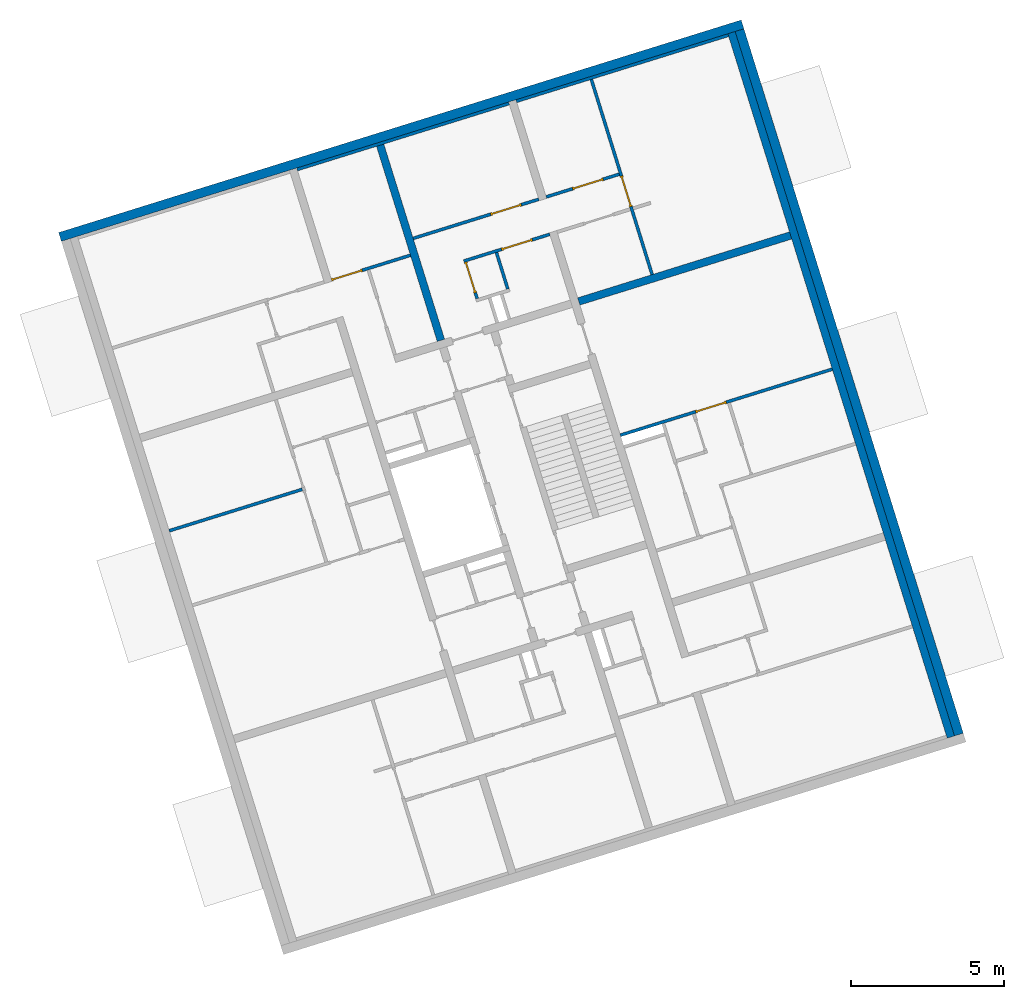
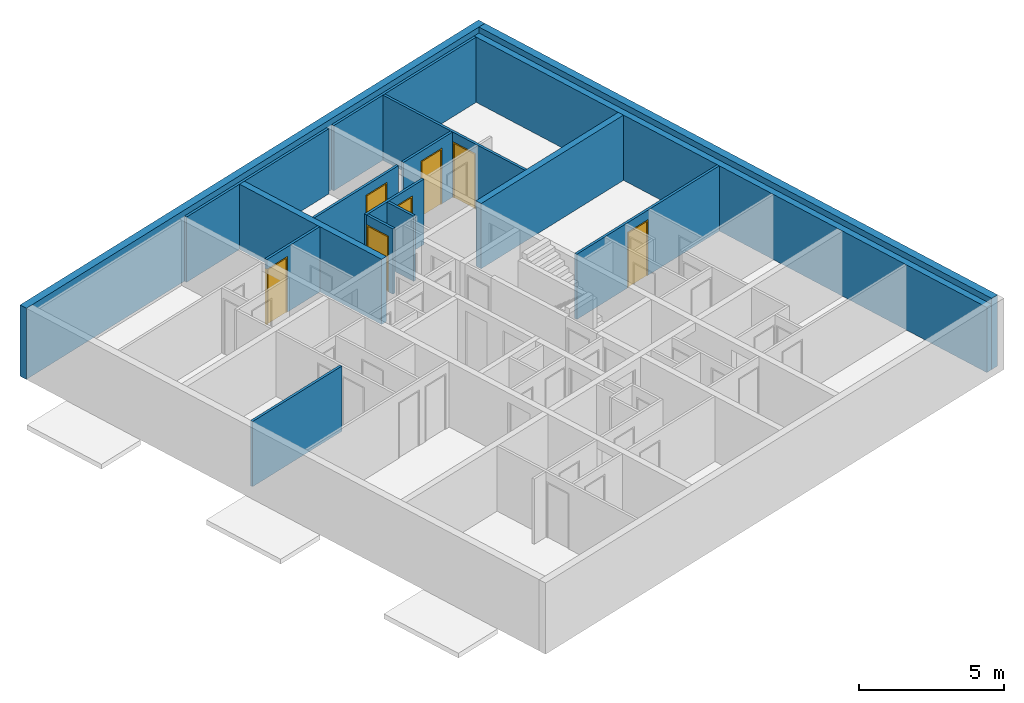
# One storey, part 6 of 8: 16 walls, 7 doors, 9 openings.
"""IFC4 building model written with IfcOpenShell, lengths in metres."""

from ifc_helpers import new_model, entity, si_unit, converted_unit, direction, frame, origin, place, context, subcontext, project, spatial, indexed_curve, outline, extrude, polygons, source, transform, mapped, material, constituent, constituent_set, type_object, type_shapes, element, fill, save


model = new_model("IFC4")

# Units and contexts
model_context = context("Model", 3, precision=1e-05, world=origin(), true_north=direction((6.12323399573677e-17, 1.0)))
body_context = subcontext(model_context, "Body", "Model", "MODEL_VIEW")
ifc_project = project(units=[si_unit("LENGTHUNIT", "METRE"), si_unit("AREAUNIT", "SQUARE_METRE"), si_unit("VOLUMEUNIT", "CUBIC_METRE"), converted_unit("PLANEANGLEUNIT", "DEGREE", entity("IfcPlaneAngleMeasure", 0.0174532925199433), si_unit("PLANEANGLEUNIT", "RADIAN"), dimensions=[0, 0, 0, 0, 0, 0, 0])], contexts=[model_context])

# Site, building, storey
site_placement = place(None, frame((13.1347999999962, 11.9886000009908, 0.0), z_axis=(0.0, 0.0, 1.0), x_axis=(0.954770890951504, 0.297342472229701, 0.0)))
site = spatial("IfcSite", under=ifc_project, at=site_placement, Name="Schiehaven", CompositionType="ELEMENT")
building_placement = place(site_placement, origin())
building = spatial("IfcBuilding", under=site, at=building_placement, Name="VORM huis", CompositionType="ELEMENT")
storey_placement = place(building_placement, frame((0.0, 0.0, 21.9)))
storey = spatial("IfcBuildingStorey", under=building, at=storey_placement, Name="07 zevende verdieping", CompositionType="ELEMENT", Elevation=21.9)

# Walls
ifc_material_1 = material(Name="beton_gewapend_ihw", Category="Miscellaneous")
wall_type_1 = type_object("IfcWallType", Name="Basic Wall:28_WA_skelet_wand 250mm_gen", PredefinedType="STANDARD")
wall_1_placement = place(storey_placement, frame((27.5000000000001, 5.0, 0.0), z_axis=(0.0, 0.0, 1.0), x_axis=(0.0, 1.0, 0.0)))
element("IfcWall", 1, at=wall_1_placement, inside=storey, type_object=wall_type_1, material=ifc_material_1, Name="Constructieve wand", ObjectType="Wand", PredefinedType="NOTDEFINED", context=body_context, shape_type="SweptSolid", body=[
    extrude(outline(indexed_curve([(24.1, 0.125000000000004), (-1.12157309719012e-16, 0.125000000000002), (1.12157309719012e-16, -0.125000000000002), (24.1, -0.125), (24.1, 0.125000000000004)], self_intersect=False)), origin(), (0.0, 0.0, 1.0), 2.75),
])
ifc_material_2 = material(Name="ntb_ntb_ntb", Category="Miscellaneous")
wall_type_2 = type_object("IfcWallType", Name="Basic Wall:21_WA_gevel_binnenspouwwand 100mm_gen", PredefinedType="STANDARD")
wall_2_placement = place(storey_placement, frame((19.875, 29.05, 0.0), z_axis=(0.0, 0.0, 1.0), x_axis=(-1.0, 0.0, 0.0)))
element("IfcWall", 2, at=wall_2_placement, inside=storey, type_object=wall_type_2, material=ifc_material_2, Name="Binnenspouwblad", ObjectType="Wand", PredefinedType="NOTDEFINED", context=body_context, shape_type="SweptSolid", body=[
    extrude(outline(indexed_curve([(7.24999999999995, 0.0500000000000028), (-8.07179175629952e-18, 0.0500000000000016), (8.07179175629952e-18, -0.0500000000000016), (7.24999999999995, -0.0500000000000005), (7.24999999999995, 0.0500000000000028)], self_intersect=False)), origin(), (0.0, 0.0, 1.0), 2.75),
])
wall_3_placement = place(storey_placement, frame((20.1250000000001, 29.05, 0.0)))
element("IfcWall", 3, at=wall_3_placement, inside=storey, type_object=wall_type_2, material=ifc_material_2, Name="Binnenspouwblad", ObjectType="Wand", PredefinedType="NOTDEFINED", context=body_context, shape_type="SweptSolid", body=[
    extrude(outline(indexed_curve([(7.24999999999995, 0.0500000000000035), (-1.62265042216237e-16, 0.0500000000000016), (1.62265042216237e-16, -0.0500000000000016), (7.24999999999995, -0.0499999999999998), (7.24999999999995, 0.0500000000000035)], self_intersect=False)), origin(), (0.0, 0.0, 1.0), 2.75),
])
wall_type_3 = type_object("IfcWallType", Name="Basic Wall: 300mm_gen", PredefinedType="STANDARD")
wall_4_placement = place(storey_placement, frame((27.7750000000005, 29.0999999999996, 0.0), z_axis=(0.0, 0.0, 1.0), x_axis=(0.0, -1.0, 0.0)))
element("IfcWall", 4, at=wall_4_placement, inside=storey, type_object=wall_type_3, material=ifc_material_2, Name="Gevelwand", ObjectType="Wand", PredefinedType="NOTDEFINED", context=body_context, shape_type="SweptSolid", body=[
    extrude(outline(indexed_curve([(24.1, 0.150000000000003), (2.02161848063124e-15, 0.150000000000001), (-2.02161848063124e-15, -0.150000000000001), (24.1, -0.149999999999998), (24.1, 0.150000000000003)], self_intersect=False)), origin(), (0.0, 0.0, 1.0), 3.0),
])
wall_5_placement = place(storey_placement, frame((4.57500000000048, 29.25, 0.0)))
element("IfcWall", 5, at=wall_5_placement, inside=storey, type_object=wall_type_3, material=ifc_material_2, Name="Gevelwand", ObjectType="Wand", PredefinedType="NOTDEFINED", context=body_context, shape_type="SweptSolid", body=[
    extrude(outline(indexed_curve([(23.35, 0.149999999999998), (-1.57429718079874e-16, 0.150000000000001), (1.57429718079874e-16, -0.150000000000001), (23.35, -0.150000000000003), (23.35, 0.149999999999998)], self_intersect=False)), origin(), (0.0, 0.0, 1.0), 3.0),
])
wall_type_4 = type_object("IfcWallType", Name="Basic Wall:22_WA_afbouw_binnenwand 250mm_gen", PredefinedType="STANDARD")
wall_6_placement = place(storey_placement, frame((15.4500000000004, 22.3249999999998, 0.0), z_axis=(0.0, 0.0, 1.0), x_axis=(0.0, 1.0, 0.0)))
element("IfcWall", 6, at=wall_6_placement, inside=storey, type_object=wall_type_4, material=ifc_material_2, Name="Binnenwand", ObjectType="Wand", PredefinedType="NOTDEFINED", context=body_context, shape_type="SweptSolid", body=[
    extrude(outline(indexed_curve([(6.67500000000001, 0.124999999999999), (2.02524027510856e-15, 0.125), (-2.02524027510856e-15, -0.125), (6.67500000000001, -0.125), (6.67500000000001, 0.124999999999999)], self_intersect=False)), origin(), (0.0, 0.0, 1.0), 2.75),
])
wall_7_placement = place(storey_placement, frame((20.1250000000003, 22.1999999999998, 0.0)))
element("IfcWall", 7, at=wall_7_placement, inside=storey, type_object=wall_type_4, material=ifc_material_2, Name="Binnenwand", ObjectType="Wand", PredefinedType="NOTDEFINED", context=body_context, shape_type="SweptSolid", body=[
    extrude(outline(indexed_curve([(7.24999999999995, 0.125000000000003), (-1.80881749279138e-15, 0.125000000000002), (1.80881749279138e-15, -0.125000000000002), (7.24999999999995, -0.125000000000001), (7.24999999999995, 0.125000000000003)], self_intersect=False)), origin(), (0.0, 0.0, 1.0), 2.75),
])

# Wall, opening, door
wall_type_5 = type_object("IfcWallType", Name="Basic Wall:22_WA_afbouw_binnenwand 100mm_gen", PredefinedType="STANDARD")
wall_8_placement = place(storey_placement, frame((19.8750000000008, 25.7750000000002, 0.0), z_axis=(0.0, 0.0, 1.0), x_axis=(-1.0, 0.0, 0.0)))
wall_8 = element("IfcWall", 8, at=wall_8_placement, inside=storey, type_object=wall_type_5, material=ifc_material_2, Name="Binnenwand", ObjectType="Wand", PredefinedType="NOTDEFINED", context=body_context, shape_type="Tessellation", body=[
    polygons([(1.41600119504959e-15, -0.0499999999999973, 0.0), (0.599999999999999, -0.0499999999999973, 0.0), (0.600000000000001, -0.0499999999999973, 2.34999999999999), (1.65, -0.0500000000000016, 2.34999999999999), (1.65, -0.0500000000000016, 0.0), (4.30000000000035, -0.0500000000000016, 0.0), (4.30000000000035, -0.0500000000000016, 2.75), (1.41600119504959e-15, -0.0499999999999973, 2.75), (0.600000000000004, 0.0500000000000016, 2.34999999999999), (0.600000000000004, 0.0500000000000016, 0.0), (-3.19070089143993e-17, 0.0500000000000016, 0.0), (-3.19070089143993e-17, 0.0500000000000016, 2.75), (4.30000000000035, 0.0499999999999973, 2.75), (4.30000000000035, 0.0499999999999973, 0.0), (1.65, 0.0499999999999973, 0.0), (1.65, 0.0499999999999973, 2.34999999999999)], [[[1, 2, 3, 4, 5, 6, 7, 8]], [[9, 10, 11, 12, 13, 14, 15, 16]], [[11, 10, 2, 1]], [[7, 6, 14, 13]], [[8, 7, 13, 12]], [[1, 8, 12, 11]], [[5, 4, 16, 15]], [[3, 2, 10, 9]], [[4, 3, 9, 16]], [[15, 14, 6, 5]]], closed=True),
])
opening_1_placement = place(wall_8_placement, frame((0.599999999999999, -0.0500000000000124, 0.0)))
opening_1 = element("IfcOpeningElement", 9, at=opening_1_placement, cuts=wall_8, Name="Binnendeur", PredefinedType="OPENING", context=body_context, shape_type="SweptSolid", body=[
    extrude(outline(indexed_curve([(2.34999999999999, 1.05), (0.0, 1.05), (0.0, 1.35358391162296e-15), (2.34999999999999, 1.35358391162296e-15), (2.34999999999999, 1.05)], self_intersect=False)), frame((0.0, 0.0, 0.0), z_axis=(0.0, 1.0, 0.0), x_axis=(0.0, 0.0, 1.0)), (0.0, 0.0, 1.0), 0.1),
])
ifc_material_3 = material(Name="PD_a_binnenwandopeningen", Category="Miscellaneous")
ifc_constituent_1 = constituent(ifc_material_3, Name="PD_a_binnenwandopeningen", Category="Miscellaneous")
ifc_material_4 = material(Name="metaal_aluminium_ntb", Category="Miscellaneous")
ifc_constituent_2 = constituent(ifc_material_4, Name="metaal_aluminium_ntb", Category="Miscellaneous")
ifc_constituent_set_1 = constituent_set(constituents=[ifc_constituent_1, ifc_constituent_2])
door_type = type_object("IfcDoorType", Name="32_DO_binnendeur enkel:binnendeur", OperationType="REVOLVING", PredefinedType="DOOR")
shared_shape_1 = source(origin(), body_context, "Body", "SweptSolid", [
    extrude(outline(indexed_curve([(-1.16249999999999, -0.525000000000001), (1.18749999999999, -0.525), (1.18749999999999, 0.525), (-1.16249999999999, 0.525), (-1.16249999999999, 0.475), (1.13749999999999, 0.475), (1.13749999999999, -0.475), (-1.16249999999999, -0.475), (-1.16249999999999, -0.525000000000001)], self_intersect=False)), frame((0.525000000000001, 0.0, 1.16249999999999), z_axis=(0.0, 1.0, 0.0), x_axis=(0.0, 0.0, 1.0)), (0.0, 0.0, 1.0), 0.1),
    extrude(outline(indexed_curve([(-0.025, -0.475), (0.025, -0.475), (0.025, 0.475), (-0.025, 0.475), (-0.025, -0.475)], self_intersect=False)), frame((0.525000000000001, 0.0499999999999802, 0.0), z_axis=(0.0, 0.0, 1.0), x_axis=(0.0, 1.0, 0.0)), (0.0, 0.0, 1.0), 2.29999999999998),
])
type_shapes(door_type, [shared_shape_1])
door_1_placement = place(opening_1_placement, origin())
door_1 = element("IfcDoor", 10, at=door_1_placement, inside=storey, type_object=door_type, material=ifc_constituent_set_1, Name="Binnendeur", ObjectType="Deur", OperationType="REVOLVING", OverallHeight=2.34999999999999, OverallWidth=1.05, PredefinedType="DOOR", context=body_context, shape_type="MappedRepresentation", body=[
    mapped(shared_shape_1, transform((0.0, 0.0, 0.0), scale=1.0)),
])
fill(opening_1, door_1)

# Wall, openings, door
wall_9_placement = place(storey_placement, frame((19.8750000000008, 24.5750000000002, 0.0), z_axis=(0.0, 0.0, 1.0), x_axis=(-1.0, 0.0, 0.0)))
wall_9 = element("IfcWall", 11, at=wall_9_placement, inside=storey, type_object=wall_type_5, material=ifc_material_2, Name="Binnenwand", ObjectType="Wand", PredefinedType="NOTDEFINED", context=body_context, shape_type="Tessellation", body=[
    polygons([(1.65, -0.0500000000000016, 2.34999999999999), (1.65, -0.0500000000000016, 0.0), (2.94100000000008, -0.0500000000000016, 0.0), (2.94100000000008, -0.0500000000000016, 2.75), (1.36697681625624e-15, -0.0499999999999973, 2.75), (1.36697681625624e-15, -0.0499999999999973, 0.0), (0.599999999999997, -0.0499999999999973, 0.0), (0.599999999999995, -0.0499999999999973, 2.34999999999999), (2.94100000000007, 0.0499999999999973, 0.0), (1.89100000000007, 0.0499999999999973, 0.0), (1.79100000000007, 0.0500000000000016, 0.0), (1.65, 0.0499999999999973, 0.0), (1.65, 0.0499999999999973, 2.34999999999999), (0.6, 0.0500000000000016, 2.34999999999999), (0.6, 0.0500000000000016, 0.0), (-8.09313877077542e-17, 0.0500000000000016, 0.0), (-8.09313877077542e-17, 0.0500000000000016, 2.75), (1.79100000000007, 0.0500000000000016, 2.75), (1.89100000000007, 0.0499999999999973, 2.75), (2.84100000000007, 0.0499999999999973, 2.75), (2.94100000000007, 0.0499999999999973, 2.75), (2.94100000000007, 0.0499999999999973, 2.34999999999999)], [[[1, 2, 3, 4, 5, 6, 7, 8]], [[9, 10, 11, 12, 13, 14, 15, 16, 17, 18, 19, 20, 21, 22]], [[7, 6, 16, 15]], [[5, 4, 21, 20, 19, 18, 17]], [[6, 5, 17, 16]], [[15, 14, 8, 7]], [[13, 12, 2, 1]], [[14, 13, 1, 8]], [[4, 3, 9, 22, 21]], [[3, 2, 12, 11, 10, 9]]], closed=True),
])
opening_2_placement = place(wall_9_placement, origin())
element("IfcOpeningElement", 12, at=opening_2_placement, cuts=wall_9, Name="Binnendeur", PredefinedType="OPENING", context=body_context, shape_type="SweptSolid", body=[
    extrude(outline(indexed_curve([(-0.0499999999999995, -1.17499999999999), (0.0500000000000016, -1.17499999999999), (0.0500000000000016, 1.17499999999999), (-0.0499999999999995, 1.17499999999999), (-0.0499999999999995, -1.17499999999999)], self_intersect=False)), frame((2.89100000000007, 0.0499999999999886, 1.17499999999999), z_axis=(0.0, 1.0, 0.0), x_axis=(-1.0, 0.0, 0.0)), (0.0, 0.0, 1.0), 1.05),
])
opening_3_placement = place(wall_9_placement, frame((1.65, 0.0499999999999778, 0.0)))
opening_3 = element("IfcOpeningElement", 13, at=opening_3_placement, cuts=wall_9, Name="Binnendeur", PredefinedType="OPENING", context=body_context, shape_type="SweptSolid", body=[
    extrude(outline(indexed_curve([(2.34999999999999, 1.05), (0.0, 1.05), (0.0, 1.35358391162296e-15), (2.34999999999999, 1.35358391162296e-15), (2.34999999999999, 1.05)], self_intersect=False)), frame((0.0, 0.0, 0.0), z_axis=(0.0, -1.0, 0.0), x_axis=(0.0, 0.0, 1.0)), (0.0, 0.0, 1.0), 0.1),
])
ifc_constituent_3 = constituent(ifc_material_3, Name="PD_a_binnenwandopeningen", Category="Miscellaneous")
ifc_constituent_4 = constituent(ifc_material_4, Name="metaal_aluminium_ntb", Category="Miscellaneous")
ifc_constituent_set_2 = constituent_set(constituents=[ifc_constituent_3, ifc_constituent_4])
door_2_placement = place(opening_3_placement, frame((0.0, 0.0, 0.0), z_axis=(0.0, 0.0, 1.0), x_axis=(-1.0, 0.0, 0.0)))
door_2 = element("IfcDoor", 14, at=door_2_placement, inside=storey, type_object=door_type, material=ifc_constituent_set_2, Name="Binnendeur", ObjectType="Deur", OperationType="REVOLVING", OverallHeight=2.34999999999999, OverallWidth=1.05, PredefinedType="DOOR", context=body_context, shape_type="MappedRepresentation", body=[
    mapped(shared_shape_1, transform((0.0, 0.0, 0.0), scale=1.0)),
])
fill(opening_3, door_2)

# Wall, opening, door
wall_10_placement = place(storey_placement, frame((16.9840000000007, 24.5250000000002, 0.0), z_axis=(0.0, 0.0, 1.0), x_axis=(0.0, -1.0, 0.0)))
wall_10 = element("IfcWall", 15, at=wall_10_placement, inside=storey, type_object=wall_type_5, material=ifc_material_2, Name="Binnenwand", ObjectType="Wand", PredefinedType="NOTDEFINED", context=body_context, shape_type="Tessellation", body=[
    polygons([(1.24999999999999, -0.0500000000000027, 2.75), (0.0, -0.0500000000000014, 2.75), (0.0, -0.0500000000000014, 2.34999999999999), (1.05, -0.050000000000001, 2.34999999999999), (1.05, -0.050000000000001, 0.0), (1.24999999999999, -0.0500000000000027, 0.0), (0.0, 0.0499999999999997, 2.75), (1.25, 0.0500000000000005, 2.75), (1.25, 0.0500000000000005, 0.0), (1.05, 0.0500000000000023, 0.0), (1.05, 0.0500000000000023, 2.34999999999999), (0.0, 0.0499999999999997, 2.34999999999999)], [[[1, 2, 3, 4, 5, 6]], [[7, 8, 9, 10, 11, 12]], [[9, 6, 5, 10]], [[2, 1, 8, 7]], [[4, 11, 10, 5]], [[11, 4, 3, 12]], [[1, 6, 9, 8]], [[2, 7, 12, 3]]], closed=True),
])
opening_4_placement = place(wall_10_placement, frame((1.05, 0.0499999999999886, 0.0)))
opening_4 = element("IfcOpeningElement", 16, at=opening_4_placement, cuts=wall_10, Name="Binnendeur", PredefinedType="OPENING", context=body_context, shape_type="SweptSolid", body=[
    extrude(outline(indexed_curve([(2.34999999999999, 1.05), (0.0, 1.05), (0.0, 0.0), (2.34999999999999, 0.0), (2.34999999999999, 1.05)], self_intersect=False)), frame((0.0, 0.0, 0.0), z_axis=(0.0, -1.0, 0.0), x_axis=(0.0, 0.0, 1.0)), (0.0, 0.0, 1.0), 0.1),
])
ifc_constituent_5 = constituent(ifc_material_3, Name="PD_a_binnenwandopeningen", Category="Miscellaneous")
ifc_constituent_6 = constituent(ifc_material_4, Name="metaal_aluminium_ntb", Category="Miscellaneous")
ifc_constituent_set_3 = constituent_set(constituents=[ifc_constituent_5, ifc_constituent_6])
door_3_placement = place(opening_4_placement, frame((0.0, 0.0, 0.0), z_axis=(0.0, 0.0, 1.0), x_axis=(-1.0, 0.0, 0.0)))
door_3 = element("IfcDoor", 17, at=door_3_placement, inside=storey, type_object=door_type, material=ifc_constituent_set_3, Name="Binnendeur", ObjectType="Deur", OperationType="REVOLVING", OverallHeight=2.34999999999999, OverallWidth=1.05, PredefinedType="DOOR", context=body_context, shape_type="MappedRepresentation", body=[
    mapped(shared_shape_1, transform((0.0, 0.0, 0.0), scale=1.0)),
])
fill(opening_4, door_3)

# Wall
wall_11_placement = place(storey_placement, frame((18.0340000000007, 23.2750000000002, 0.0), z_axis=(0.0, 0.0, 1.0), x_axis=(0.0, 1.0, 0.0)))
element("IfcWall", 18, at=wall_11_placement, inside=storey, type_object=wall_type_5, material=ifc_material_2, Name="Binnenwand", ObjectType="Wand", PredefinedType="NOTDEFINED", context=body_context, shape_type="SweptSolid", body=[
    extrude(outline(indexed_curve([(1.25, 0.049999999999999), (-6.72839576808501e-16, 0.0499999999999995), (6.72839576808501e-16, -0.0499999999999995), (1.25, -0.05), (1.25, 0.049999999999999)], self_intersect=False)), origin(), (0.0, 0.0, 1.0), 2.75),
])

# Wall, opening, door
wall_12_placement = place(storey_placement, frame((20.1250000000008, 25.7750000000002, 0.0)))
wall_12 = element("IfcWall", 19, at=wall_12_placement, inside=storey, type_object=wall_type_5, material=ifc_material_2, Name="Binnenwand", ObjectType="Wand", PredefinedType="NOTDEFINED", context=body_context, shape_type="Tessellation", body=[
    polygons([(-4.45664919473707e-16, -0.0499999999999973, 0.0), (0.899999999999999, -0.049999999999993, 0.0), (0.899999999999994, -0.049999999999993, 2.34999999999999), (1.95, -0.0499999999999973, 2.34999999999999), (1.95, -0.0499999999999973, 0.0), (2.5, -0.049999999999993, 0.0), (2.5, -0.049999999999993, 2.75), (-4.45664919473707e-16, -0.0499999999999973, 2.75), (0.899999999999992, 0.050000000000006, 2.34999999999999), (0.899999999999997, 0.050000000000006, 0.0), (-2.31636917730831e-15, 0.0500000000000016, 0.0), (-2.31636917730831e-15, 0.0500000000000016, 2.75), (2.50000000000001, 0.050000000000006, 2.75), (2.50000000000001, 0.050000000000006, 0.0), (1.95, 0.0500000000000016, 0.0), (1.95, 0.0500000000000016, 2.34999999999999)], [[[1, 2, 3, 4, 5, 6, 7, 8]], [[9, 10, 11, 12, 13, 14, 15, 16]], [[11, 10, 2, 1]], [[8, 7, 13, 12]], [[1, 8, 12, 11]], [[5, 4, 16, 15]], [[3, 2, 10, 9]], [[4, 3, 9, 16]], [[7, 6, 14, 13]], [[15, 14, 6, 5]]], closed=True),
])
opening_5_placement = place(wall_12_placement, frame((1.95, 0.049999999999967, 0.0)))
opening_5 = element("IfcOpeningElement", 20, at=opening_5_placement, cuts=wall_12, Name="Binnendeur", PredefinedType="OPENING", context=body_context, shape_type="SweptSolid", body=[
    extrude(outline(indexed_curve([(2.34999999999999, 0.0), (2.34999999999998, 1.05), (0.0, 1.05), (2.16573425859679e-15, 0.0), (2.34999999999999, 0.0)], self_intersect=False)), frame((0.0, 0.0, 0.0), z_axis=(0.0, -1.0, 0.0), x_axis=(0.0, 0.0, 1.0)), (0.0, 0.0, 1.0), 0.1),
])
ifc_constituent_7 = constituent(ifc_material_3, Name="PD_a_binnenwandopeningen", Category="Miscellaneous")
ifc_constituent_8 = constituent(ifc_material_4, Name="metaal_aluminium_ntb", Category="Miscellaneous")
ifc_constituent_set_4 = constituent_set(constituents=[ifc_constituent_7, ifc_constituent_8])
shared_shape_2 = source(origin(), body_context, "Body", "SweptSolid", [
    extrude(outline(indexed_curve([(0.475, -1.16249999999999), (0.525, -1.16249999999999), (0.525, 1.18749999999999), (-0.525, 1.18749999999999), (-0.525, -1.16249999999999), (-0.475, -1.16249999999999), (-0.475, 1.13749999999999), (0.475, 1.13749999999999), (0.475, -1.16249999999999)], self_intersect=False)), frame((0.525000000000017, 0.100000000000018, 1.16249999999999), z_axis=(0.0, -1.0, 0.0), x_axis=(1.0, 0.0, 0.0)), (0.0, 0.0, 1.0), 0.1),
    extrude(outline(indexed_curve([(-0.475, -0.025), (0.475, -0.025), (0.475, 0.025), (-0.475, 0.025), (-0.475, -0.025)], self_intersect=False)), frame((0.525000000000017, 0.0499999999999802, 0.0)), (0.0, 0.0, 1.0), 2.29999999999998),
])
door_4_placement = place(opening_5_placement, frame((0.0, 0.0, 0.0), z_axis=(0.0, 0.0, 1.0), x_axis=(-1.0, 0.0, 0.0)))
door_4 = element("IfcDoor", 21, at=door_4_placement, inside=storey, type_object=door_type, material=ifc_constituent_set_4, Name="Binnendeur", ObjectType="Deur", OperationType="REVOLVING", OverallHeight=2.34999999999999, OverallWidth=1.05, PredefinedType="DOOR", context=body_context, shape_type="MappedRepresentation", body=[
    mapped(shared_shape_2, transform((0.0, 0.0, 0.0), scale=1.0)),
])
fill(opening_5, door_4)

wall_13_placement = place(storey_placement, frame((22.6750000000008, 22.3250000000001, 0.0), z_axis=(0.0, 0.0, 1.0), x_axis=(0.0, 1.0, 0.0)))
wall_13 = element("IfcWall", 22, at=wall_13_placement, inside=storey, type_object=wall_type_5, material=ifc_material_2, Name="Binnenwand", ObjectType="Wand", PredefinedType="NOTDEFINED", context=body_context, shape_type="Tessellation", body=[
    polygons([(4.33146851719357e-15, -0.0499999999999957, 0.0), (2.2, -0.0499999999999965, 0.0), (2.3, -0.0499999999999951, 0.0), (2.32500000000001, -0.0499999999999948, 0.0), (2.32500000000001, -0.0499999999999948, 2.34999999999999), (3.37500000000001, -0.0499999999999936, 2.34999999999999), (3.37500000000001, -0.0499999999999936, 0.0), (6.67499999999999, -0.0499999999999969, 0.0), (6.67499999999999, -0.0499999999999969, 2.75), (2.3, -0.0499999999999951, 2.75), (2.2, -0.0499999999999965, 2.75), (4.33146851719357e-15, -0.0499999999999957, 2.75), (2.325, 0.0500000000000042, 2.34999999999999), (2.325, 0.0500000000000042, 0.0), (2.3, 0.0500000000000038, 0.0), (2.2, 0.0500000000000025, 0.0), (0.0, 0.0500000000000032, 0.0), (0.0, 0.0500000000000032, 2.75), (2.2, 0.0500000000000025, 2.75), (2.3, 0.0500000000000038, 2.75), (3.4, 0.0500000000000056, 2.75), (3.5, 0.0500000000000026, 2.75), (6.67499999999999, 0.050000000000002, 2.75), (6.67499999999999, 0.050000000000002, 0.0), (3.5, 0.0500000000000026, 0.0), (3.4, 0.0500000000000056, 0.0), (3.37500000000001, 0.0500000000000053, 0.0), (3.37500000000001, 0.0500000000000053, 2.34999999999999)], [[[1, 2, 3, 4, 5, 6, 7, 8, 9, 10, 11, 12]], [[13, 14, 15, 16, 17, 18, 19, 20, 21, 22, 23, 24, 25, 26, 27, 28]], [[17, 16, 15, 14, 4, 3, 2, 1]], [[9, 8, 24, 23]], [[12, 11, 10, 9, 23, 22, 21, 20, 19, 18]], [[1, 12, 18, 17]], [[7, 6, 28, 27]], [[5, 4, 14, 13]], [[6, 5, 13, 28]], [[27, 26, 25, 24, 8, 7]]], closed=True),
])
opening_6_placement = place(wall_13_placement, frame((2.325, -0.0500000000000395, 0.0)))
opening_6 = element("IfcOpeningElement", 23, at=opening_6_placement, cuts=wall_13, Name="Binnendeur", PredefinedType="OPENING", context=body_context, shape_type="SweptSolid", body=[
    extrude(outline(indexed_curve([(2.34999999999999, 1.05), (0.0, 1.05), (0.0, -4.30326930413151e-29), (2.34999999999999, -4.30326930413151e-29), (2.34999999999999, 1.05)], self_intersect=False)), frame((0.0, 0.0, 0.0), z_axis=(0.0, 1.0, 0.0), x_axis=(0.0, 0.0, 1.0)), (0.0, 0.0, 1.0), 0.1),
])
ifc_constituent_9 = constituent(ifc_material_3, Name="PD_a_binnenwandopeningen", Category="Miscellaneous")
ifc_constituent_10 = constituent(ifc_material_4, Name="metaal_aluminium_ntb", Category="Miscellaneous")
ifc_constituent_set_5 = constituent_set(constituents=[ifc_constituent_9, ifc_constituent_10])
door_5_placement = place(opening_6_placement, origin())
door_5 = element("IfcDoor", 24, at=door_5_placement, inside=storey, type_object=door_type, material=ifc_constituent_set_5, Name="Binnendeur", ObjectType="Deur", OperationType="REVOLVING", OverallHeight=2.34999999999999, OverallWidth=1.05, PredefinedType="DOOR", context=body_context, shape_type="MappedRepresentation", body=[
    mapped(shared_shape_1, transform((0.0, 0.0, 0.0), scale=1.0)),
])
fill(opening_6, door_5)

wall_14_placement = place(storey_placement, frame((20.1228357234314, 17.625, 0.0)))
wall_14 = element("IfcWall", 25, at=wall_14_placement, inside=storey, type_object=wall_type_5, material=ifc_material_2, Name="Binnenwand", ObjectType="Wand", PredefinedType="NOTDEFINED", context=body_context, shape_type="Tessellation", body=[
    polygons([(-1.21241354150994e-15, -0.0500000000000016, 0.0), (1.40216427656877, -0.0500000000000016, 0.0), (1.50216427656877, -0.0499999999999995, 0.0), (2.45216427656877, -0.0500000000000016, 0.0), (2.55216427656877, -0.0500000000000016, 0.0), (2.57716427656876, -0.0500000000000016, 0.0), (2.57716427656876, -0.0500000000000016, 2.34999999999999), (3.62716427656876, -0.0500000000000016, 2.34999999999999), (3.62716427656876, -0.0500000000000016, 0.0), (3.65216427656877, -0.0500000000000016, 0.0), (3.75216427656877, -0.0499999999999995, 0.0), (7.25216427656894, -0.0499999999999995, 0.0), (7.25216427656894, -0.0499999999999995, 2.75), (3.75216427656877, -0.0499999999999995, 2.75), (3.65216427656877, -0.0500000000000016, 2.75), (2.55216427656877, -0.0500000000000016, 2.75), (2.45216427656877, -0.0500000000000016, 2.75), (1.50216427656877, -0.0499999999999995, 2.75), (1.40216427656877, -0.0500000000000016, 2.75), (-1.21241354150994e-15, -0.0500000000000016, 2.75), (2.57716427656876, 0.0499999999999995, 2.34999999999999), (2.57716427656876, 0.0499999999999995, 0.0), (-1.5889964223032e-15, 0.0499999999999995, 0.0), (-1.5889964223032e-15, 0.0499999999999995, 2.75), (7.25216427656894, 0.0500000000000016, 2.75), (7.25216427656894, 0.0500000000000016, 0.0), (3.62716427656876, 0.0500000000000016, 0.0), (3.62716427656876, 0.0500000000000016, 2.34999999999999)], [[[1, 2, 3, 4, 5, 6, 7, 8, 9, 10, 11, 12, 13, 14, 15, 16, 17, 18, 19, 20]], [[21, 22, 23, 24, 25, 26, 27, 28]], [[23, 22, 6, 5, 4, 3, 2, 1]], [[13, 12, 26, 25]], [[20, 19, 18, 17, 16, 15, 14, 13, 25, 24]], [[1, 20, 24, 23]], [[9, 8, 28, 27]], [[7, 6, 22, 21]], [[8, 7, 21, 28]], [[27, 26, 12, 11, 10, 9]]], closed=True),
])
opening_7_placement = place(wall_14_placement, frame((2.57716427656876, -0.0500000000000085, 0.0)))
opening_7 = element("IfcOpeningElement", 26, at=opening_7_placement, cuts=wall_14, Name="Binnendeur", PredefinedType="OPENING", context=body_context, shape_type="SweptSolid", body=[
    extrude(outline(indexed_curve([(2.34999999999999, 1.05), (0.0, 1.05), (0.0, -1.4336339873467e-30), (2.34999999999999, -1.4336339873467e-30), (2.34999999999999, 1.05)], self_intersect=False)), frame((0.0, 0.0, 0.0), z_axis=(0.0, 1.0, 0.0), x_axis=(0.0, 0.0, 1.0)), (0.0, 0.0, 1.0), 0.1),
])
ifc_constituent_11 = constituent(ifc_material_3, Name="PD_a_binnenwandopeningen", Category="Miscellaneous")
ifc_constituent_12 = constituent(ifc_material_4, Name="metaal_aluminium_ntb", Category="Miscellaneous")
ifc_constituent_set_6 = constituent_set(constituents=[ifc_constituent_11, ifc_constituent_12])
door_6_placement = place(opening_7_placement, origin())
door_6 = element("IfcDoor", 27, at=door_6_placement, inside=storey, type_object=door_type, material=ifc_constituent_set_6, Name="Binnendeur", ObjectType="Deur", OperationType="REVOLVING", OverallHeight=2.34999999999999, OverallWidth=1.05, PredefinedType="DOOR", context=body_context, shape_type="MappedRepresentation", body=[
    mapped(shared_shape_1, transform((0.0, 0.0, 0.0), scale=1.0)),
])
fill(opening_7, door_6)

wall_15_placement = place(storey_placement, frame((15.3250000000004, 25.2750000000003, 0.0), z_axis=(0.0, 0.0, 1.0), x_axis=(-1.0, 0.0, 0.0)))
wall_15 = element("IfcWall", 28, at=wall_15_placement, inside=storey, type_object=wall_type_5, material=ifc_material_2, Name="Binnenwand", ObjectType="Wand", PredefinedType="NOTDEFINED", context=body_context, shape_type="Tessellation", body=[
    polygons([(2.69999999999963, -0.049999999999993, 2.75), (5.14203627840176e-16, -0.0499999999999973, 2.75), (5.14203627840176e-16, -0.0499999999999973, 0.0), (1.64999999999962, -0.0499999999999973, 0.0), (1.64999999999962, -0.0499999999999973, 2.34999999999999), (2.69999999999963, -0.049999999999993, 2.34999999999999), (2.04309701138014e-16, 0.0500000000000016, 2.75), (1.39999999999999, 0.0500000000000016, 2.75), (1.49999999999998, 0.0500000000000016, 2.75), (2.69999999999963, 0.050000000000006, 2.75), (2.69999999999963, 0.050000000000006, 2.34999999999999), (1.64999999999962, 0.0500000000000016, 2.34999999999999), (1.64999999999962, 0.0500000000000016, 0.0), (1.49999999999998, 0.0500000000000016, 0.0), (1.39999999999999, 0.0500000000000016, 0.0), (2.04309701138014e-16, 0.0500000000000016, 0.0)], [[[1, 2, 3, 4, 5, 6]], [[7, 8, 9, 10, 11, 12, 13, 14, 15, 16]], [[3, 16, 15, 14, 13, 4]], [[10, 1, 6, 11]], [[2, 1, 10, 9, 8, 7]], [[3, 2, 7, 16]], [[12, 5, 4, 13]], [[5, 12, 11, 6]]], closed=True),
])
opening_8_placement = place(wall_15_placement, frame((1.64999999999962, -0.050000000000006, 0.0)))
opening_8 = element("IfcOpeningElement", 29, at=opening_8_placement, cuts=wall_15, Name="Binnendeur", PredefinedType="OPENING", context=body_context, shape_type="SweptSolid", body=[
    extrude(outline(indexed_curve([(2.34999999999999, 1.05), (0.0, 1.05), (0.0, 1.35358391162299e-15), (2.34999999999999, 1.35358391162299e-15), (2.34999999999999, 1.05)], self_intersect=False)), frame((0.0, 0.0, 0.0), z_axis=(0.0, 1.0, 0.0), x_axis=(0.0, 0.0, 1.0)), (0.0, 0.0, 1.0), 0.1),
])
ifc_constituent_13 = constituent(ifc_material_3, Name="PD_a_binnenwandopeningen", Category="Miscellaneous")
ifc_constituent_14 = constituent(ifc_material_4, Name="metaal_aluminium_ntb", Category="Miscellaneous")
ifc_constituent_set_7 = constituent_set(constituents=[ifc_constituent_13, ifc_constituent_14])
door_7_placement = place(opening_8_placement, origin())
door_7 = element("IfcDoor", 30, at=door_7_placement, inside=storey, type_object=door_type, material=ifc_constituent_set_7, Name="Binnendeur", ObjectType="Deur", OperationType="REVOLVING", OverallHeight=2.34999999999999, OverallWidth=1.05, PredefinedType="DOOR", context=body_context, shape_type="MappedRepresentation", body=[
    mapped(shared_shape_1, transform((0.0, 0.0, 0.0), scale=1.0)),
])
fill(opening_8, door_7)

# Wall, opening
wall_16_placement = place(storey_placement, frame((9.6750000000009, 19.0250000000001, 0.0), z_axis=(0.0, 0.0, 1.0), x_axis=(-1.0, 0.0, 0.0)))
wall_16 = element("IfcWall", 31, at=wall_16_placement, inside=storey, type_object=wall_type_5, material=ifc_material_2, Name="Binnenwand", ObjectType="Wand", PredefinedType="NOTDEFINED", context=body_context, shape_type="Tessellation", body=[
    polygons([(3.01916530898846e-16, -0.0500000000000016, 0.0), (4.55000000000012, -0.0500000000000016, 0.0), (4.55000000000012, -0.0500000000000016, 2.75), (3.01916530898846e-16, -0.0500000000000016, 2.75), (3.01916530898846e-16, -0.0500000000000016, 2.34999999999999), (6.73589386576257e-16, 0.0500000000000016, 0.0), (6.73589386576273e-16, 0.0499999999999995, 2.34999999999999), (6.73589386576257e-16, 0.0500000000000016, 2.75), (4.55000000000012, 0.0499999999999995, 2.75), (4.55000000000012, 0.0499999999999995, 0.0)], [[[1, 2, 3, 4, 5]], [[6, 7, 8, 9, 10]], [[2, 1, 6, 10]], [[3, 2, 10, 9]], [[4, 3, 9, 8]], [[1, 5, 4, 8, 7, 6]]], closed=True),
])
opening_9_placement = place(wall_16_placement, origin())
element("IfcOpeningElement", 32, at=opening_9_placement, cuts=wall_16, Name="Binnendeur", PredefinedType="OPENING", context=body_context, shape_type="SweptSolid", body=[
    extrude(outline(indexed_curve([(-0.0499999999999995, -1.17499999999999), (0.0499999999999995, -1.17499999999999), (0.0499999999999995, 1.17499999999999), (-0.0499999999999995, 1.17499999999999), (-0.0499999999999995, -1.17499999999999)], self_intersect=False)), frame((-0.049999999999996, -1.1, 1.17499999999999), z_axis=(0.0, 1.0, 0.0), x_axis=(1.0, 0.0, 0.0)), (0.0, 0.0, 1.0), 1.05),
])

save(model, "model.ifc")
